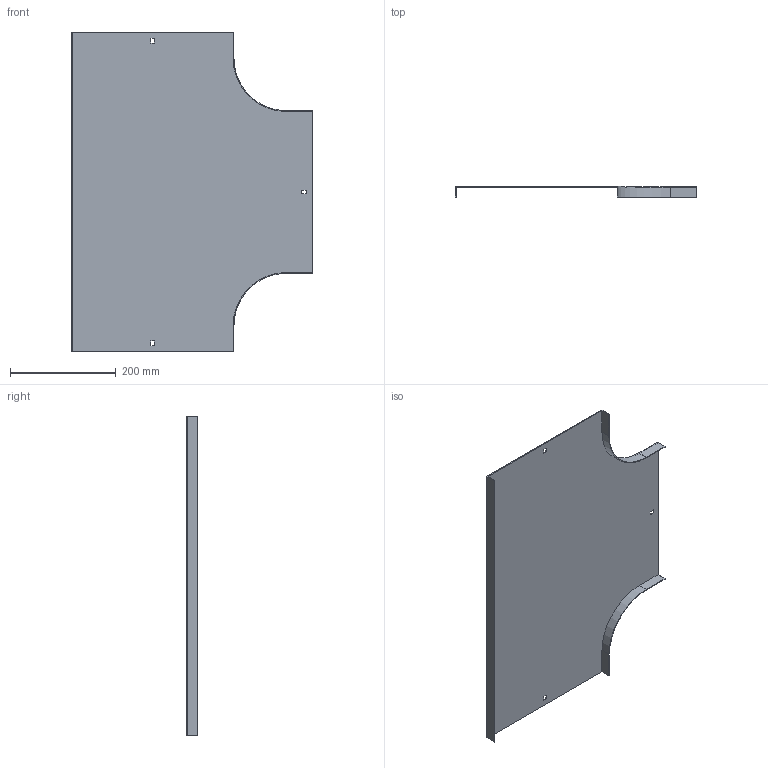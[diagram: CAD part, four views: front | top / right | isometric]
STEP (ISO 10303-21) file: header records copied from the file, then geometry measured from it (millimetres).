
FILE_DESCRIPTION (( 'STEP AP214' ), '1' );
FILE_NAME ('15N1R300.step', '2025-02-21T09:52:08', ( '' ), ( '' ), 'SwSTEP 2.0', 'SolidWorks 2023', '' );
FILE_SCHEMA (( 'AUTOMOTIVE_DESIGN' ));
Length unit declared in the file: millimetre
Products named in the file (1): 15N1R300
Bounding box: 455.5 x 20 x 604 mm (x, y, z)
Volume: 383472.9 mm3; surface area: 514654.9 mm2
Topology: 1 solids, 1 shells, 34 faces, 96 edges, 64 vertices
Faces by surface type: plane 30, cylinder 4
Entity records: 1123 total; most frequent: CARTESIAN_POINT 195, ORIENTED_EDGE 192, DIRECTION 174, EDGE_CURVE 96, VECTOR 88, LINE 88, VERTEX_POINT 64, AXIS2_PLACEMENT_3D 43
